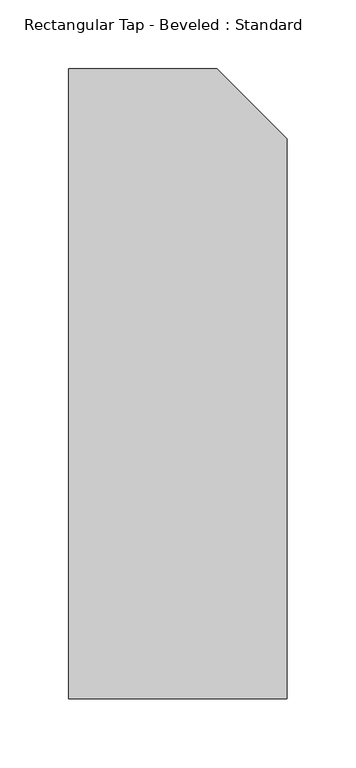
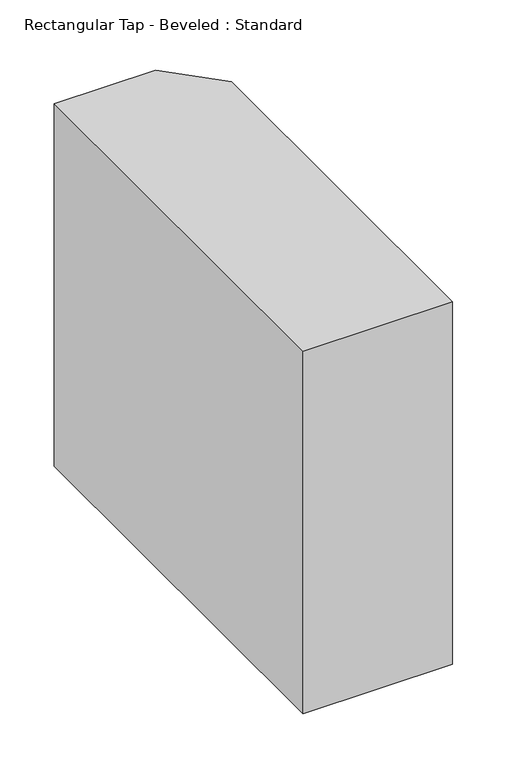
"""IFC4 building model written with IfcOpenShell, lengths in millimetres: duct fitting geometry, Rectangular Tap - Beveled : Standard."""

from ifc_helpers import new_model, si_unit, frame, origin, place, context, project, spatial, polyline, outline, extrude, source, transform, mapped, element, save


def rectangular_tap_beveled_standard_9f1364f6(model_context):
    return source(origin(), model_context, "Body", "SweptSolid", [
        extrude(outline(polyline([(50.8, -203.2), (-107.696, -203.2), (-107.696, 254.0), (0.0, 254.0), (50.8, 203.2), (50.8, -203.2)])), frame((0.0, 0.0, -203.2), z_axis=(0.0, 0.0, 1.0), x_axis=(1.0, 0.0, 0.0)), (0.0, 0.0, 1.0), 406.4),
    ])


if __name__ == "__main__":
    model = new_model("IFC4")
    model_context = context("Model", 3, world=origin())
    ifc_project = project(units=[si_unit("LENGTHUNIT", "METRE", prefix="MILLI")], contexts=[model_context])
    site = spatial("IfcSite", under=ifc_project)
    building = spatial("IfcBuilding", under=site)
    placement = place(None, origin())
    rectangular_tap_beveled_standard_shape = rectangular_tap_beveled_standard_9f1364f6(model_context)
    element("IfcDuctFitting", 1, ObjectType="Rectangular Tap - Beveled : Standard", at=placement, inside=building, context=model_context, shape_type="MappedRepresentation", body=[
        mapped(rectangular_tap_beveled_standard_shape, transform((0.0, 0.0, 0.0), x_axis=(1.0, 0.0, 0.0), y_axis=(0.0, 1.0, 0.0), z_axis=(0.0, 0.0, 1.0))),
    ])
    save(model, "model.ifc")
